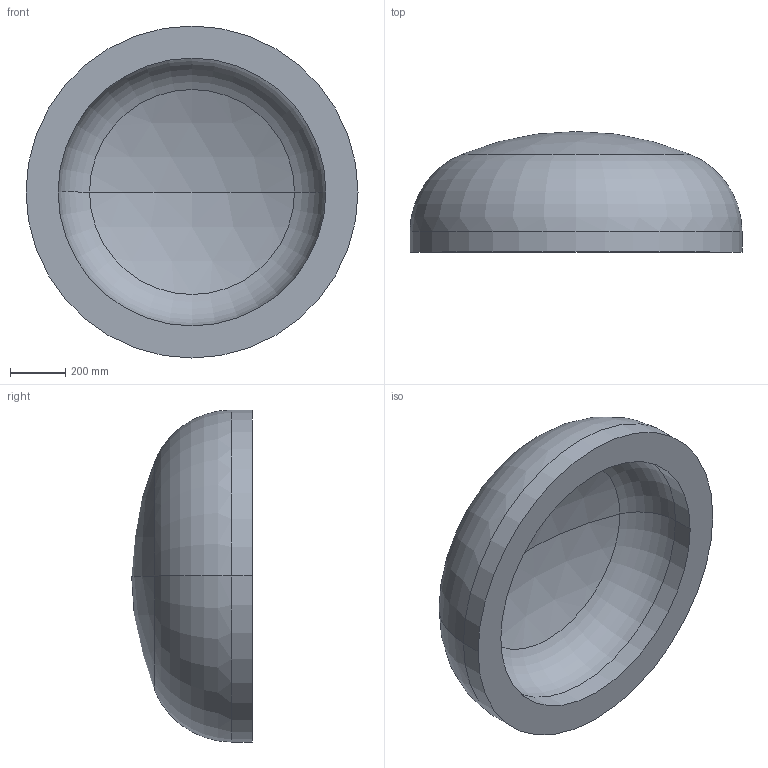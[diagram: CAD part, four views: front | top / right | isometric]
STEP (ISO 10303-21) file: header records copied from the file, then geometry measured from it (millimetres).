
FILE_DESCRIPTION (( 'STEP AP203' ), '1' );
FILE_NAME ('DIN 28013 Korbbogenform_-_Boden DIN 28013 - 1200 x 75 - I - s=116.step', '2016-07-01T09:39:52', ( '' ), ( '' ), 'SwSTEP 2.0', 'SolidWorks 2013', '' );
FILE_SCHEMA (( 'CONFIG_CONTROL_DESIGN' ));
Length unit declared in the file: millimetre
Products named in the file (1): DIN 28013 Korbbogenform_-_Boden DIN 28013 - 1200 x 75 - I - s=116
Bounding box: 1200 x 436 x 1200 mm (x, y, z)
Volume: 190836414.1 mm3; surface area: 3713501 mm2
Topology: 1 solids, 1 shells, 13 faces, 24 edges, 14 vertices
Faces by surface type: torus 4, cylinder 4, sphere 4, plane 1
Entity records: 407 total; most frequent: DIRECTION 72, CARTESIAN_POINT 52, ORIENTED_EDGE 48, AXIS2_PLACEMENT_3D 34, EDGE_CURVE 24, CIRCLE 20, VERTEX_POINT 14, EDGE_LOOP 14
